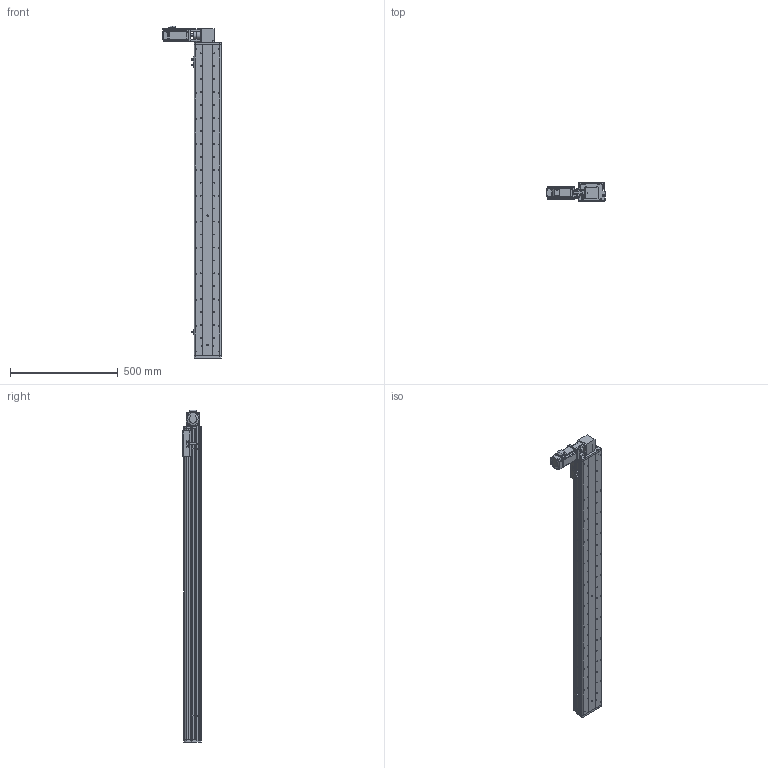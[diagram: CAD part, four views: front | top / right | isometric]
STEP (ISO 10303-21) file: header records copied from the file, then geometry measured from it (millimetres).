
FILE_DESCRIPTION (( 'STEP AP214' ), '1' );
FILE_NAME ('KSD125B-S1250-MRT-CM.STEP', '2017-08-07T07:41:27', ( '微软用户' ), ( '微软中国' ), 'SwSTEP 2.0', 'SolidWorks 2014', '' );
FILE_SCHEMA (( 'AUTOMOTIVE_DESIGN' ));
Length unit declared in the file: millimetre
Products named in the file (16): 125模组同步带-尾端板1; KSD125模组同步带-滑动座1; KSD125B-S1250-MRT-CM; KSD125模组1250行程同步带-防尘盖; 125模组1250行程同步带-底板; MHMD042G1CA_2_03; KSD125模组同步带-防撞垫2; CS-34X32-10X14; 100遵鎮湛假蚾啣1 ; 覜茼え68遵圉猾敕; U倰嫖萇假蚾璃; U倰嫖萇EEㄜSX672; KSD125模组同步带-防撞垫1; 100宽安装板同步带带电机座400W,86; 100宽马达安装板同步带右; 前端板-125宽模组同步带
Assembly tree (19 placements, depth 2):
  KSD125B-S1250-MRT-CM
    KSD125模组同步带-滑动座1
    125模组同步带-尾端板1
    前端板-125宽模组同步带
    100宽马达安装板同步带右
    100宽安装板同步带带电机座400W,86
    KSD125模组同步带-防撞垫1
    U倰嫖萇EEㄜSX672  x3
    U倰嫖萇假蚾璃  x3
    覜茼え68遵圉猾敕
    100遵鎮湛假蚾啣1 
    CS-34X32-10X14
    KSD125模组同步带-防撞垫2
    MHMD042G1CA_2_03
    125模组1250行程同步带-底板
    KSD125模组1250行程同步带-防尘盖
Bounding box: 269 x 86 x 1539 mm (x, y, z)
Volume: 4577688.3 mm3; surface area: 1497707.7 mm2
Topology: 18 solids, 21 shells, 1750 faces, 5026 edges, 3316 vertices
Faces by surface type: cylinder 937, plane 710, cone 81, bspline 22
Entity records: 61926 total; most frequent: CARTESIAN_POINT 12476, DIRECTION 9077, ORIENTED_EDGE 8572, EDGE_CURVE 4364, AXIS2_PLACEMENT_3D 3393, VERTEX_POINT 2908, LINE 2291, VECTOR 2291
